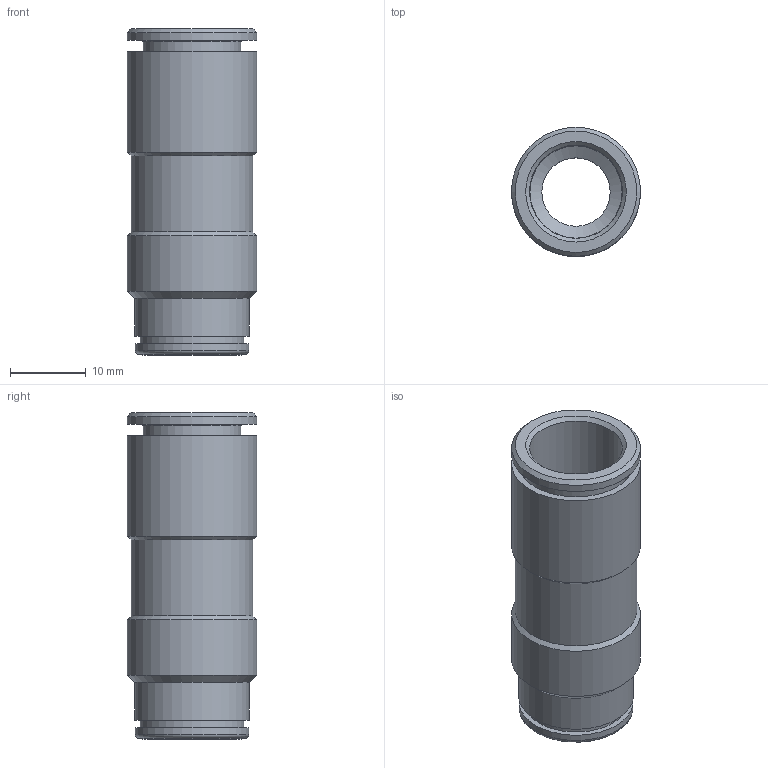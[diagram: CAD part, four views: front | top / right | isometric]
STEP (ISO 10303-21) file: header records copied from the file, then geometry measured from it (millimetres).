
FILE_DESCRIPTION(/* description */ (''),/* implementation_level */ '2;1');
FILE_NAME(/* name */ 'V200311_IPSO_03_FKM_12_10_27.02.2017',/* time_stamp */ '2017-02-27T11:55:08+01:00',/* author */ (''),/* organization */ (''),/* preprocessor_version */ 'ST-DEVELOPER v16.5',/* originating_system */ 'HiCAD 2016 2102.1 Build 498',/* authorisation */ '');
FILE_SCHEMA (('AUTOMOTIVE_DESIGN { 1 0 10303 214 1 1 1 1 }'));
Length unit declared in the file: millimetre
Products named in the file (4): Root; DR10-N; ONLINE_DR12-4; R200311-i1
Assembly tree (3 placements, depth 2):
  Root
    DR10-N
    ONLINE_DR12-4
    R200311-i1
Bounding box: 17 x 17 x 43 mm (x, y, z)
Volume: 3993.7 mm3; surface area: 5730.8 mm2
Topology: 3 solids, 3 shells, 45 faces, 85 edges, 50 vertices
Faces by surface type: cylinder 17, cone 16, plane 10, torus 2
Full cylindrical faces by diameter (mm): 9 x1, 10.2 x2, 12.15 x1, 12.25 x1, 12.3 x1, 12.9 x1, 13 x1, 13.6 x1, 13.7 x1, 14.5 x1, 15 x1, 15.1 x1, 16 x1, 17 x3
Entity records: 1448 total; most frequent: DIRECTION 192, CARTESIAN_POINT 141, AXIS2_PLACEMENT_3D 96, PRESENTATION_STYLE_ASSIGNMENT 93, COLOUR_RGB 91, DRAUGHTING_PRE_DEFINED_CURVE_FONT 90, CURVE_STYLE 90, OVER_RIDING_STYLED_ITEM 90
